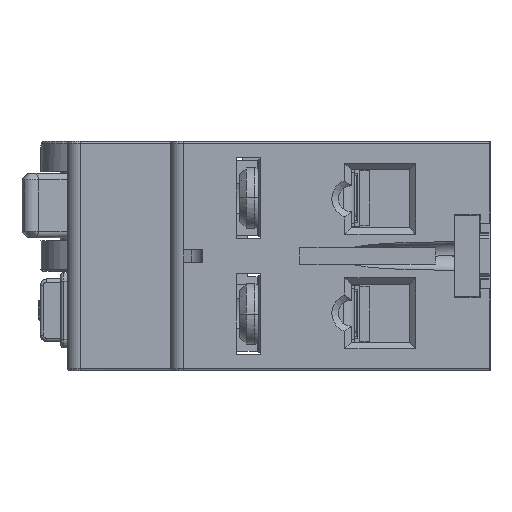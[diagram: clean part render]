
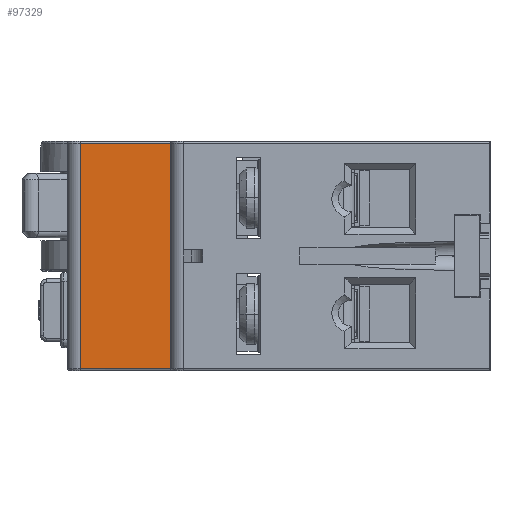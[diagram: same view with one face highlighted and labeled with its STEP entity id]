
A CAD part, left-side view. The second image highlights one B-rep face of the part: STEP entity #97329.
In plain terms, the highlighted planar face has unit normal (-1, 0, 0).
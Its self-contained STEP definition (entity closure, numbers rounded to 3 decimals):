
#1107 = AXIS2_PLACEMENT_3D ( 'NONE', #110726, #29495, #135665 ) ;
#3111 = DIRECTION ( 'NONE',  ( 0., 1., 0. ) ) ;
#10222 = LINE ( 'NONE', #157557, #172176 ) ;
#12383 = ORIENTED_EDGE ( 'NONE', *, *, #93732, .T. ) ;
#15224 = LINE ( 'NONE', #82122, #75557 ) ;
#17024 = CARTESIAN_POINT ( 'NONE',  ( -22.5, 58., 17.45 ) ) ;
#29495 = DIRECTION ( 'NONE',  ( -1., 0., 0. ) ) ;
#31614 = ORIENTED_EDGE ( 'NONE', *, *, #110873, .T. ) ;
#40938 = VERTEX_POINT ( 'NONE', #47598 ) ;
#47598 = CARTESIAN_POINT ( 'NONE',  ( -22.5, 44., 17.45 ) ) ;
#50831 = DIRECTION ( 'NONE',  ( 0., -1., 0. ) ) ;
#52161 = ORIENTED_EDGE ( 'NONE', *, *, #172045, .T. ) ;
#64329 = DIRECTION ( 'NONE',  ( 0., 0., 1. ) ) ;
#75557 = VECTOR ( 'NONE', #3111, 1000. ) ;
#82122 = CARTESIAN_POINT ( 'NONE',  ( -22.5, 44., 17.45 ) ) ;
#89556 = EDGE_LOOP ( 'NONE', ( #12383, #31614, #52161, #163556 ) ) ;
#93732 = EDGE_CURVE ( 'NONE', #40938, #144896, #15224, .T. ) ;
#97329 = ADVANCED_FACE ( 'NONE', ( #166684 ), #107348, .T. ) ;
#104274 = CARTESIAN_POINT ( 'NONE',  ( -22.5, 58., -17.45 ) ) ;
#107348 = PLANE ( 'NONE',  #1107 ) ;
#108829 = DIRECTION ( 'NONE',  ( 0., 0., -1. ) ) ;
#110726 = CARTESIAN_POINT ( 'NONE',  ( -22.5, 60., -17.75 ) ) ;
#110873 = EDGE_CURVE ( 'NONE', #144896, #128869, #128783, .T. ) ;
#119843 = CARTESIAN_POINT ( 'NONE',  ( -22.5, 58., 17.45 ) ) ;
#128783 = LINE ( 'NONE', #119843, #159852 ) ;
#128869 = VERTEX_POINT ( 'NONE', #155486 ) ;
#130472 = VERTEX_POINT ( 'NONE', #160783 ) ;
#135665 = DIRECTION ( 'NONE',  ( 0., 0., 1. ) ) ;
#144896 = VERTEX_POINT ( 'NONE', #17024 ) ;
#155486 = CARTESIAN_POINT ( 'NONE',  ( -22.5, 58., -17.45 ) ) ;
#157557 = CARTESIAN_POINT ( 'NONE',  ( -22.5, 44., -17.45 ) ) ;
#158248 = EDGE_CURVE ( 'NONE', #130472, #40938, #10222, .T. ) ;
#159852 = VECTOR ( 'NONE', #108829, 1000. ) ;
#160783 = CARTESIAN_POINT ( 'NONE',  ( -22.5, 44., -17.45 ) ) ;
#160952 = LINE ( 'NONE', #104274, #165085 ) ;
#163556 = ORIENTED_EDGE ( 'NONE', *, *, #158248, .T. ) ;
#165085 = VECTOR ( 'NONE', #50831, 1000. ) ;
#166684 = FACE_OUTER_BOUND ( 'NONE', #89556, .T. ) ;
#172045 = EDGE_CURVE ( 'NONE', #128869, #130472, #160952, .T. ) ;
#172176 = VECTOR ( 'NONE', #64329, 1000. ) ;
